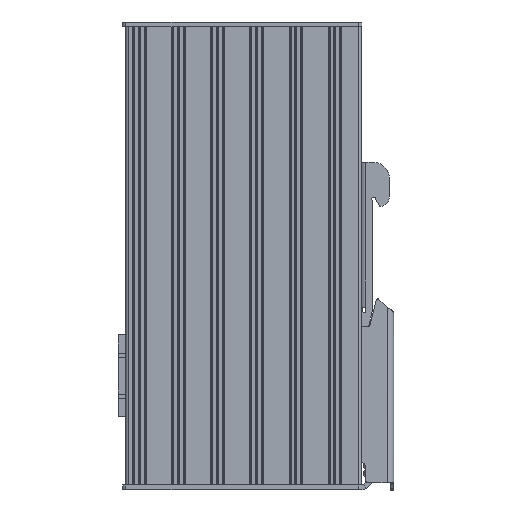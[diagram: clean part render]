
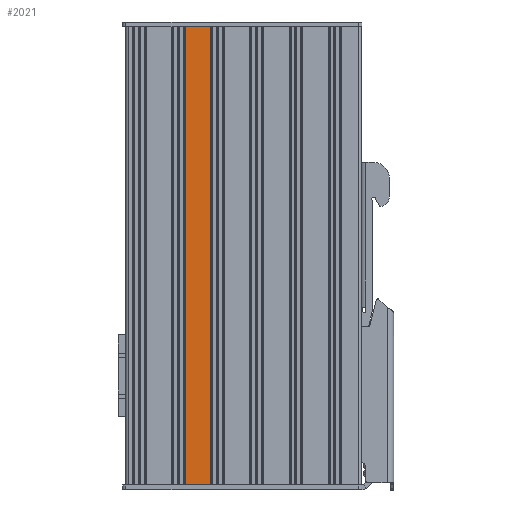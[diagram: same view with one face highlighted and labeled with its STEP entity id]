
A CAD part, left-side view. The second image highlights one B-rep face of the part: STEP entity #2021.
In plain terms, the highlighted planar face has unit normal (-1, 0, 0).
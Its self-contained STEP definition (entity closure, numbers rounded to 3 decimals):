
#1982=CARTESIAN_POINT('',(-12.25,36.15,71.));
#1983=DIRECTION('',(-1.,0.,0.));
#1984=DIRECTION('',(0.,0.,1.));
#1985=AXIS2_PLACEMENT_3D('',#1982,#1983,#1984);
#1986=PLANE('',#1985);
#1987=CARTESIAN_POINT('',(-12.25,9.7,71.));
#1988=VERTEX_POINT('',#1987);
#1989=CARTESIAN_POINT('',(-12.25,17.625,71.));
#1990=VERTEX_POINT('',#1989);
#1991=CARTESIAN_POINT('',(-12.25,9.7,71.));
#1992=DIRECTION('',(0.,1.,0.));
#1993=VECTOR('',#1992,7.925);
#1994=LINE('',#1991,#1993);
#1995=EDGE_CURVE('',#1988,#1990,#1994,.T.);
#1996=ORIENTED_EDGE('',*,*,#1995,.T.);
#1997=CARTESIAN_POINT('',(-12.25,17.625,-71.));
#1998=VERTEX_POINT('',#1997);
#1999=CARTESIAN_POINT('',(-12.25,17.625,71.));
#2000=DIRECTION('',(0.,0.,-1.));
#2001=VECTOR('',#2000,142.);
#2002=LINE('',#1999,#2001);
#2003=EDGE_CURVE('',#1990,#1998,#2002,.T.);
#2004=ORIENTED_EDGE('',*,*,#2003,.T.);
#2005=CARTESIAN_POINT('',(-12.25,9.7,-71.));
#2006=VERTEX_POINT('',#2005);
#2007=CARTESIAN_POINT('',(-12.25,9.7,-71.));
#2008=DIRECTION('',(0.,1.,0.));
#2009=VECTOR('',#2008,7.925);
#2010=LINE('',#2007,#2009);
#2011=EDGE_CURVE('',#2006,#1998,#2010,.T.);
#2012=ORIENTED_EDGE('',*,*,#2011,.F.);
#2013=CARTESIAN_POINT('',(-12.25,9.7,71.));
#2014=DIRECTION('',(0.,0.,-1.));
#2015=VECTOR('',#2014,142.);
#2016=LINE('',#2013,#2015);
#2017=EDGE_CURVE('',#1988,#2006,#2016,.T.);
#2018=ORIENTED_EDGE('',*,*,#2017,.F.);
#2019=EDGE_LOOP('',(#1996,#2004,#2012,#2018));
#2020=FACE_BOUND('',#2019,.T.);
#2021=ADVANCED_FACE('',(#2020),#1986,.T.);
